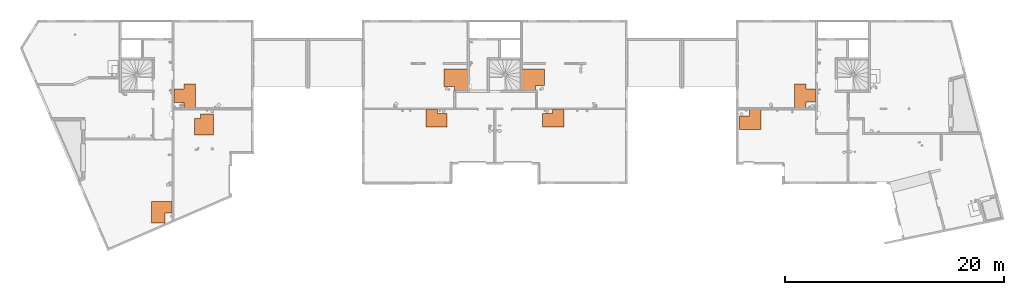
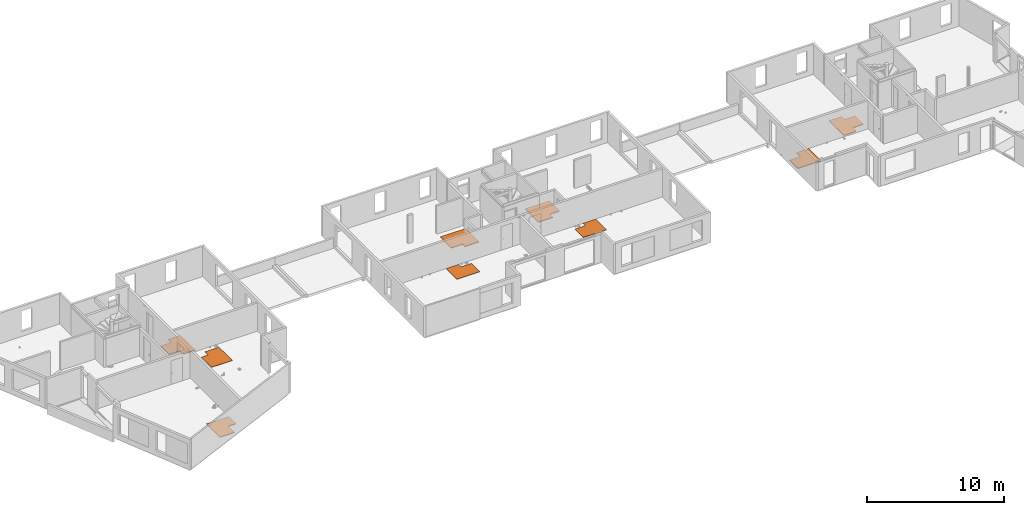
# One storey, part 19 of 24: 9 proxies.
"""IFC2X3 building model written with IfcOpenShell, lengths in centimetres."""

from ifc_helpers import new_model, entity, si_unit, converted_unit, derived_unit, direction, frame, origin, place, context, subcontext, project, spatial, polyline, outline, extrude, source, transform, mapped, material, type_object, type_shapes, element, save


model = new_model("IFC2X3")

# Units and contexts
model_context = context("Model", 3, precision=0.001, world=origin(), true_north=direction((6.12303176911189e-17, 1.0)))
body_context = subcontext(model_context, "Body", "Model", "MODEL_VIEW")
ifc_project = project(units=[si_unit("LENGTHUNIT", "METRE", prefix="CENTI"), si_unit("AREAUNIT", "SQUARE_METRE"), si_unit("VOLUMEUNIT", "CUBIC_METRE"), converted_unit("PLANEANGLEUNIT", "DEGREE", entity("IfcRatioMeasure", 0.0174532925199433), si_unit("PLANEANGLEUNIT", "RADIAN"), dimensions=[0, 0, 0, 0, 0, 0, 0]), si_unit("MASSUNIT", "GRAM", prefix="KILO"), derived_unit("MASSDENSITYUNIT", [(si_unit("MASSUNIT", "GRAM", prefix="KILO"), 1), (si_unit("LENGTHUNIT", "METRE"), -3)]), si_unit("TIMEUNIT", "SECOND"), si_unit("FREQUENCYUNIT", "HERTZ"), si_unit("THERMODYNAMICTEMPERATUREUNIT", "DEGREE_CELSIUS"), derived_unit("THERMALTRANSMITTANCEUNIT", [(si_unit("MASSUNIT", "GRAM", prefix="KILO"), 1), (si_unit("THERMODYNAMICTEMPERATUREUNIT", "KELVIN"), -1), (si_unit("TIMEUNIT", "SECOND"), -3)]), derived_unit("VOLUMETRICFLOWRATEUNIT", [(si_unit("LENGTHUNIT", "METRE"), 3), (si_unit("TIMEUNIT", "SECOND"), -1)]), si_unit("ELECTRICCURRENTUNIT", "AMPERE"), si_unit("ELECTRICVOLTAGEUNIT", "VOLT"), si_unit("POWERUNIT", "WATT"), si_unit("FORCEUNIT", "NEWTON"), si_unit("ILLUMINANCEUNIT", "LUX"), si_unit("LUMINOUSFLUXUNIT", "LUMEN"), si_unit("LUMINOUSINTENSITYUNIT", "CANDELA"), derived_unit("USERDEFINED", [(si_unit("MASSUNIT", "GRAM", prefix="KILO"), -1), (si_unit("LENGTHUNIT", "METRE"), -2), (si_unit("TIMEUNIT", "SECOND"), 3), (si_unit("LUMINOUSFLUXUNIT", "LUMEN"), 1)]), derived_unit("LINEARVELOCITYUNIT", [(si_unit("LENGTHUNIT", "METRE"), 1), (si_unit("TIMEUNIT", "SECOND"), -1)]), si_unit("PRESSUREUNIT", "PASCAL"), derived_unit("USERDEFINED", [(si_unit("LENGTHUNIT", "METRE"), -2), (si_unit("MASSUNIT", "GRAM", prefix="KILO"), 1), (si_unit("TIMEUNIT", "SECOND"), -2)])], contexts=[model_context])

# Site, building, storey
site_placement = place(None, origin())
site = spatial("IfcSite", under=ifc_project, at=site_placement, Name="Default", CompositionType="ELEMENT")
building_placement = place(site_placement, origin())
building = spatial("IfcBuilding", under=site, at=building_placement, Name="CAGE 03", CompositionType="ELEMENT")
storey_placement = place(building_placement, frame((0.0, 0.0, 880.0)))
storey = spatial("IfcBuildingStorey", under=building, at=storey_placement, Name="R+3", CompositionType="ELEMENT", Elevation=880.0)

# Proxies
ifc_material = material(Name="BBGO_Résa")
building_element_proxy_type_1 = type_object("IfcBuildingElementProxyType", Name="Décaissé", PredefinedType="NOTDEFINED", material=ifc_material)
shared_shape_1 = source(origin(), body_context, "Body", "SweptSolid", [
    extrude(outline(polyline([(3.75000000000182, -62.4999999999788), (93.7500000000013, -62.4999999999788), (93.7499999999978, 59.5000000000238), (3.7499999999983, 59.5000000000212), (3.74999999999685, 109.49999999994), (-101.250000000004, 109.499999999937), (-101.249999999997, -106.499999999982), (3.75000000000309, -106.499999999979), (3.75000000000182, -62.4999999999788)])), frame((4246.11582014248, 4602.16066607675, 874.0), z_axis=(0.0, 0.0, 1.0), x_axis=(-1.0, 0.0, 0.0)), (0.0, 0.0, 1.0), 6.00000000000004),
])
type_shapes(building_element_proxy_type_1, [shared_shape_1])
proxy_1_placement = place(storey_placement, frame((0.0, 0.0, -880.0)))
element("IfcBuildingElementProxy", 1, at=proxy_1_placement, inside=storey, type_object=building_element_proxy_type_1, material=ifc_material, Name="Décaissé29:Décaissé", ObjectType="Décaissé", context=body_context, shape_type="MappedRepresentation", body=[
    mapped(shared_shape_1, transform((0.0, 0.0, 0.0), scale=1.0)),
])
building_element_proxy_type_2 = type_object("IfcBuildingElementProxyType", Name="Décaissé", PredefinedType="NOTDEFINED", material=ifc_material)
shared_shape_2 = source(origin(), body_context, "Body", "SweptSolid", [
    extrude(outline(polyline([(-112.0, -118.333333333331), (104.0, -118.333333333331), (104.0, 41.6666666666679), (8.0, 41.6666666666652), (8.0, 76.6666666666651), (-112.0, 76.6666666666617), (-112.0, -118.333333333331)])), frame((6719.36582014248, 4727.32733274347, 874.0), z_axis=(0.0, 0.0, 1.0), x_axis=(-1.0, 0.0, 0.0)), (0.0, 0.0, 1.0), 6.00000000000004),
])
type_shapes(building_element_proxy_type_2, [shared_shape_2])
proxy_2_placement = place(storey_placement, frame((0.0, 0.0, -880.0)))
element("IfcBuildingElementProxy", 2, at=proxy_2_placement, inside=storey, type_object=building_element_proxy_type_2, material=ifc_material, Name="Décaissé30:Décaissé", ObjectType="Décaissé", context=body_context, shape_type="MappedRepresentation", body=[
    mapped(shared_shape_2, transform((0.0, 0.0, 0.0), scale=1.0)),
])
building_element_proxy_type_3 = type_object("IfcBuildingElementProxyType", Name="Décaissé", PredefinedType="NOTDEFINED", material=ifc_material)
shared_shape_3 = source(origin(), body_context, "Body", "SweptSolid", [
    extrude(outline(polyline([(-5.0, -64.0), (100.0, -64.0), (100.0, 93.0), (-95.0, 93.0), (-95.0, -29.0), (-5.0, -29.0), (-5.0, -64.0)])), frame((6550.86582014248, 4410.6606660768, 874.0), z_axis=(0.0, 0.0, 1.0), x_axis=(-1.0, 0.0, 0.0)), (0.0, 0.0, 1.0), 6.00000000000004),
])
type_shapes(building_element_proxy_type_3, [shared_shape_3])
proxy_3_placement = place(storey_placement, frame((0.0, 0.0, -880.0)))
element("IfcBuildingElementProxy", 3, at=proxy_3_placement, inside=storey, type_object=building_element_proxy_type_3, material=ifc_material, Name="Décaissé31:Décaissé", ObjectType="Décaissé", context=body_context, shape_type="MappedRepresentation", body=[
    mapped(shared_shape_3, transform((0.0, 0.0, 0.0), scale=1.0)),
])
building_element_proxy_type_4 = type_object("IfcBuildingElementProxyType", Name="Décaissé", PredefinedType="NOTDEFINED", material=ifc_material)
shared_shape_4 = source(origin(), body_context, "Body", "SweptSolid", [
    extrude(outline(polyline([(-64.0, 5.0), (-64.0, -100.0), (93.0, -100.0), (93.0, 95.0), (-29.0, 95.0), (-29.0, 5.0), (-64.0, 5.0)])), frame((7611.86582014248, 4410.6606660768, 874.0), z_axis=(0.0, 0.0, -1.0), x_axis=(0.0, -1.0, 0.0)), (0.0, 0.0, -1.0), 6.00000000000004),
])
type_shapes(building_element_proxy_type_4, [shared_shape_4])
proxy_4_placement = place(storey_placement, frame((0.0, 0.0, -880.0)))
element("IfcBuildingElementProxy", 4, at=proxy_4_placement, inside=storey, type_object=building_element_proxy_type_4, material=ifc_material, Name="Décaissé33:Décaissé", ObjectType="Décaissé", context=body_context, shape_type="MappedRepresentation", body=[
    mapped(shared_shape_4, transform((0.0, 0.0, 0.0), scale=1.0)),
])
building_element_proxy_type_5 = type_object("IfcBuildingElementProxyType", Name="Décaissé", PredefinedType="NOTDEFINED", material=ifc_material)
shared_shape_5 = source(origin(), body_context, "Body", "SweptSolid", [
    extrude(outline(polyline([(63.0, -3.74980466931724), (106.0, -3.74980466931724), (106.0, 101.250195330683), (-110.0, 101.250195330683), (-110.0, -3.75058599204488), (-59.0, -3.75058599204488), (-59.0, -93.7498046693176), (63.0, -93.7498046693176), (63.0, -3.74980466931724)])), frame((9916.61601547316, 4602.66066607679, 874.0), z_axis=(0.0, 0.0, 1.0), x_axis=(0.0, 1.0, 0.0)), (0.0, 0.0, 1.0), 6.00000000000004),
])
type_shapes(building_element_proxy_type_5, [shared_shape_5])
proxy_5_placement = place(storey_placement, frame((0.0, 0.0, -880.0)))
element("IfcBuildingElementProxy", 5, at=proxy_5_placement, inside=storey, type_object=building_element_proxy_type_5, material=ifc_material, Name="Décaissé34:Décaissé", ObjectType="Décaissé", context=body_context, shape_type="MappedRepresentation", body=[
    mapped(shared_shape_5, transform((0.0, 0.0, 0.0), scale=1.0)),
])
building_element_proxy_type_6 = type_object("IfcBuildingElementProxyType", Name="Décaissé", PredefinedType="NOTDEFINED", material=ifc_material)
shared_shape_6 = source(origin(), body_context, "Body", "SweptSolid", [
    extrude(outline(polyline([(-78.6666666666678, 5.0), (-78.6666666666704, -100.0), (100.333333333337, -100.0), (100.333333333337, 95.0), (-21.6666666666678, 95.0), (-21.6666666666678, 5.0), (-78.6666666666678, 5.0)])), frame((9409.36582014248, 4395.99399941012, 874.0), z_axis=(0.0, 0.0, -1.0), x_axis=(0.0, -1.0, 0.0)), (0.0, 0.0, -1.0), 6.00000000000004),
])
type_shapes(building_element_proxy_type_6, [shared_shape_6])
proxy_6_placement = place(storey_placement, frame((0.0, 0.0, -880.0)))
element("IfcBuildingElementProxy", 6, at=proxy_6_placement, inside=storey, type_object=building_element_proxy_type_6, material=ifc_material, Name="Décaissé35:Décaissé", ObjectType="Décaissé", context=body_context, shape_type="MappedRepresentation", body=[
    mapped(shared_shape_6, transform((0.0, 0.0, 0.0), scale=1.0)),
])
building_element_proxy_type_7 = type_object("IfcBuildingElementProxyType", Name="Décaissé", PredefinedType="NOTDEFINED", material=ifc_material)
shared_shape_7 = source(origin(), body_context, "Body", "SweptSolid", [
    extrude(outline(polyline([(-115.0, -108.666666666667), (80.0, -108.666666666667), (80.0, 13.3333333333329), (35.0, 13.3333333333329), (35.0, 95.3333333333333), (-115.0, 95.3333333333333), (-115.0, -108.666666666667)])), frame((7440.03248680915, 4730.6606660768, 874.0), z_axis=(0.0, 0.0, 1.0), x_axis=(0.0, -1.0, 0.0)), (0.0, 0.0, 1.0), 6.00000000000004),
])
type_shapes(building_element_proxy_type_7, [shared_shape_7])
proxy_7_placement = place(storey_placement, frame((0.0, 0.0, -880.0)))
element("IfcBuildingElementProxy", 7, at=proxy_7_placement, inside=storey, type_object=building_element_proxy_type_7, material=ifc_material, Name="Décaissé32:Décaissé", ObjectType="Décaissé", context=body_context, shape_type="MappedRepresentation", body=[
    mapped(shared_shape_7, transform((0.0, 0.0, 0.0), scale=1.0)),
])
building_element_proxy_type_8 = type_object("IfcBuildingElementProxyType", Name="Décaissé", PredefinedType="NOTDEFINED", material=ifc_material)
shared_shape_8 = source(origin(), body_context, "Body", "SweptSolid", [
    extrude(outline(polyline([(-84.0, -100.0), (103.0, -100.0), (103.0, 95.0), (-19.0, 95.0), (-19.0, 5.0), (-84.0, 5.0), (-84.0, -100.0)])), frame((4050.36582014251, 3537.66066607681, 874.0), z_axis=(0.0, 0.0, 1.0), x_axis=(-1.0, 0.0, 0.0)), (0.0, 0.0, 1.0), 6.00000000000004),
])
type_shapes(building_element_proxy_type_8, [shared_shape_8])
proxy_8_placement = place(storey_placement, frame((0.0, 0.0, -880.0)))
element("IfcBuildingElementProxy", 8, at=proxy_8_placement, inside=storey, type_object=building_element_proxy_type_8, material=ifc_material, Name="Décaissé4:Décaissé", ObjectType="Décaissé", context=body_context, shape_type="MappedRepresentation", body=[
    mapped(shared_shape_8, transform((0.0, 0.0, 0.0), scale=1.0)),
])
building_element_proxy_type_9 = type_object("IfcBuildingElementProxyType", Name="Décaissé", PredefinedType="NOTDEFINED", material=ifc_material)
shared_shape_9 = source(origin(), body_context, "Body", "SweptSolid", [
    extrude(outline(polyline([(-98.3333333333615, -80.0), (21.6666666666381, -80.0), (21.6666666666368, -35.0), (76.6666666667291, -35.0), (76.6666666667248, 115.0), (-98.3333333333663, 115.0), (-98.3333333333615, -80.0)])), frame((4416.53248680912, 4357.66066607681, 874.0), z_axis=(0.0, 0.0, 1.0), x_axis=(-1.0, 0.0, 0.0)), (0.0, 0.0, 1.0), 6.00000000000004),
])
type_shapes(building_element_proxy_type_9, [shared_shape_9])
proxy_9_placement = place(storey_placement, frame((0.0, 0.0, -880.0)))
element("IfcBuildingElementProxy", 9, at=proxy_9_placement, inside=storey, type_object=building_element_proxy_type_9, material=ifc_material, Name="Décaissé12:Décaissé", ObjectType="Décaissé", context=body_context, shape_type="MappedRepresentation", body=[
    mapped(shared_shape_9, transform((0.0, 0.0, 0.0), scale=1.0)),
])

save(model, "model.ifc")
